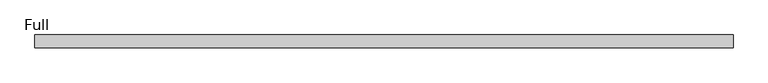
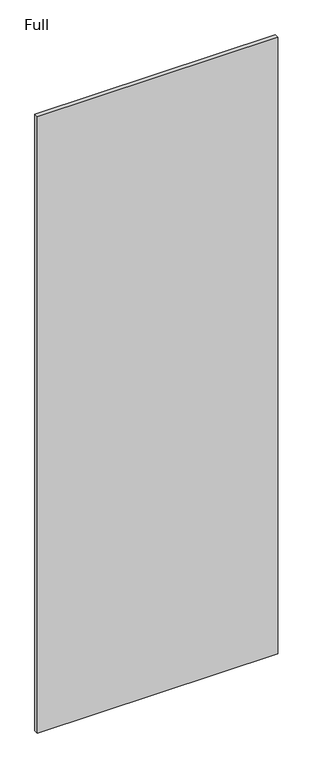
"""IFC4 building model written with IfcOpenShell, lengths in millimetres: proxy geometry, Panel-Fascia-Teknion-Altos-Standard : Full."""

from ifc_helpers import new_model, si_unit, frame, origin, place, context, project, spatial, polyline, outline, extrude, source, transform, mapped, element, save


def full_e515b6ae(model_context):
    return source(origin(), model_context, "Body", "SweptSolid", [
        extrude(outline(polyline([(523.875, 9.525), (523.875, -9.525), (-523.875, -9.525), (-523.875, 9.525), (523.875, 9.525)])), frame((0.0, 0.0, 3.175), z_axis=(0.0, 0.0, 1.0), x_axis=(1.0, 0.0, 0.0)), (0.0, 0.0, 1.0), 2840.736),
    ])


if __name__ == "__main__":
    model = new_model("IFC4")
    model_context = context("Model", 3, world=origin())
    ifc_project = project(units=[si_unit("LENGTHUNIT", "METRE", prefix="MILLI")], contexts=[model_context])
    site = spatial("IfcSite", under=ifc_project)
    building = spatial("IfcBuilding", under=site)
    placement = place(None, origin())
    full_shape = full_e515b6ae(model_context)
    element("IfcBuildingElementProxy", 1, Name="Panel-Fascia-Teknion-Altos-Standard : Full", ObjectType="Panel-Fascia-Teknion-Altos-Standard : Full", at=placement, inside=building, context=model_context, shape_type="MappedRepresentation", body=[
        mapped(full_shape, transform((0.0, 0.0, 0.0), x_axis=(1.0, 0.0, 0.0), y_axis=(0.0, 1.0, 0.0), z_axis=(0.0, 0.0, 1.0))),
    ])
    save(model, "model.ifc")
